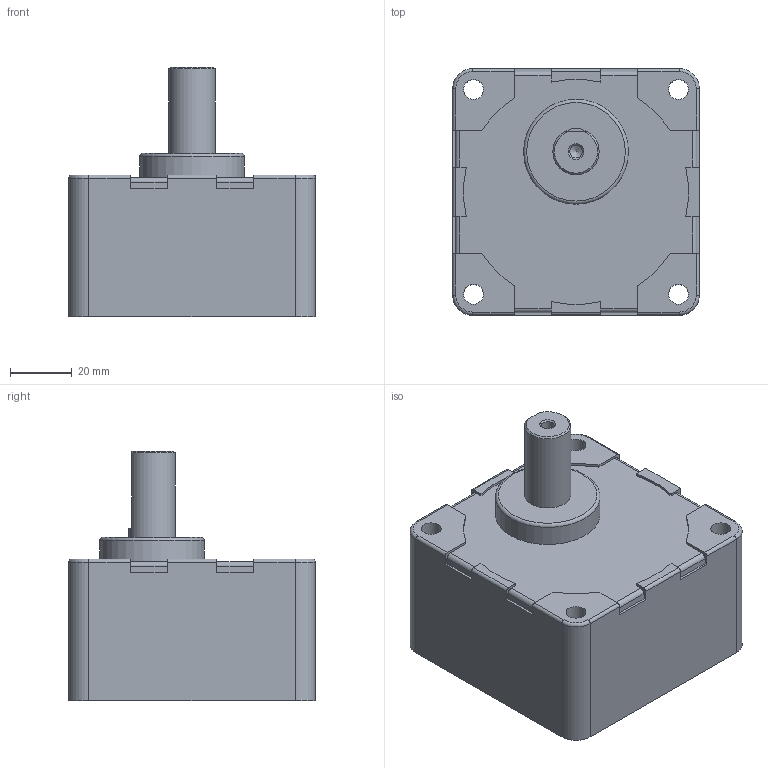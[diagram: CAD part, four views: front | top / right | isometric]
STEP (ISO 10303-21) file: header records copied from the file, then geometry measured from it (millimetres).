
FILE_DESCRIPTION(/* description */ (''),/* implementation_level */ '2;1');
FILE_NAME(/* name */ 'E:\도면작업\2016\0704) 미주향 SG 도면\3D GEAR HEAD\SG8DA30~120.stp',/* time_stamp */ '2016-07-22T14:02:44+09:00',/* author */ ('jy-jung'),/* organization */ (''),/* preprocessor_version */ 'ST-DEVELOPER v15.6',/* originating_system */ 'Autodesk Inventor 2015',/* authorisation */ '');
FILE_SCHEMA (('CONFIG_CONTROL_DESIGN','AUTOMOTIVE_DESIGN { 1 0 10303 214 3 1 1 }'));
Length unit declared in the file: millimetre
Products named in the file (1): SG8DA30~120
Bounding box: 80 x 80 x 81 mm (x, y, z)
Volume: 283605.4 mm3; surface area: 33540.2 mm2
Topology: 1 solids, 1 shells, 102 faces, 275 edges, 179 vertices
Faces by surface type: plane 52, cylinder 40, cone 5, torus 5
Full cylindrical faces by diameter (mm): 4.134 x1, 6.5 x4, 7.5 x1, 15 x1, 34 x1, 73 x1
Entity records: 3155 total; most frequent: DIRECTION 553, CARTESIAN_POINT 543, ORIENTED_EDGE 518, EDGE_CURVE 259, AXIS2_PLACEMENT_3D 193, VERTEX_POINT 177, LINE 167, VECTOR 167
